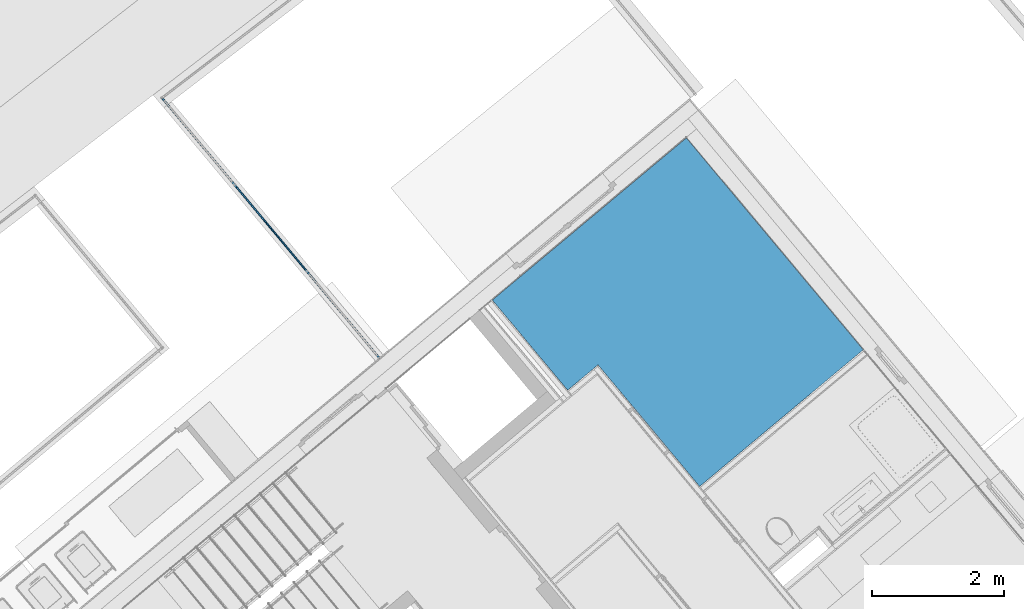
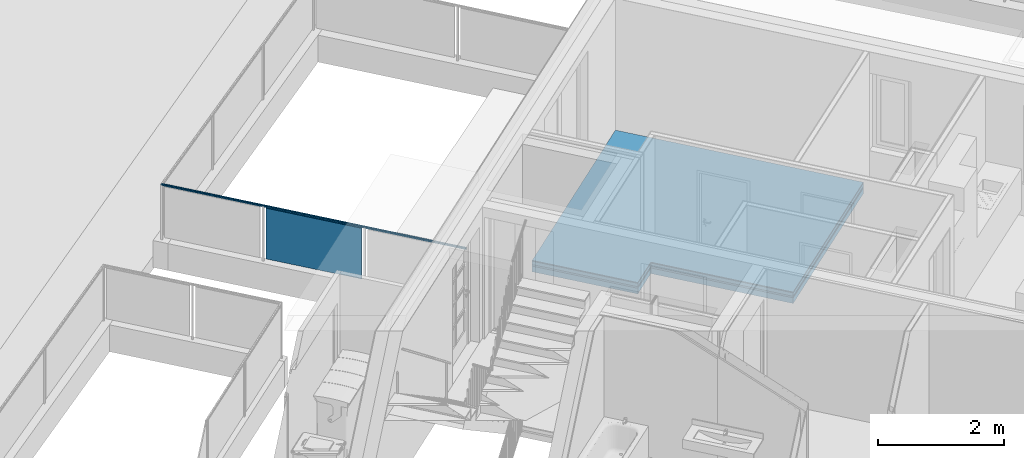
# One storey, part 41 of 75: 6 building element parts, 2 elements without a shape of their own.
"""IFC4 building model written with IfcOpenShell, lengths in metres."""

from ifc_helpers import new_model, entity, si_unit, converted_unit, derived_unit, direction, frame, origin_with_axes, place, context, subcontext, project, spatial, polygons, material, type_object, element, aggregate, save


model = new_model("IFC4")

# Units and contexts
model_context = context("Model", 3, precision=1e-05, world=origin_with_axes(), true_north=direction((0.0, 1.0)))
body_context = subcontext(model_context, "Body", "Model", "MODEL_VIEW")
ifc_project = project(units=[si_unit("LENGTHUNIT", "METRE"), si_unit("AREAUNIT", "SQUARE_METRE"), si_unit("VOLUMEUNIT", "CUBIC_METRE"), converted_unit("PLANEANGLEUNIT", "DEGREE", entity("IfcPlaneAngleMeasure", 0.0174532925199), si_unit("PLANEANGLEUNIT", "RADIAN"), dimensions=[0, 0, 0, 0, 0, 0, 0]), converted_unit("TIMEUNIT", "Year", entity("IfcTimeMeasure", 31556926.0), si_unit("TIMEUNIT", "SECOND"), dimensions=[0, 0, 1, 0, 0, 0, 0]), si_unit("MASSUNIT", "GRAM", prefix="KILO"), si_unit("THERMODYNAMICTEMPERATUREUNIT", "DEGREE_CELSIUS"), si_unit("LUMINOUSINTENSITYUNIT", "LUMEN"), si_unit("ENERGYUNIT", "JOULE", prefix="MEGA"), derived_unit("THERMALCONDUCTANCEUNIT", [(si_unit("POWERUNIT", "WATT"), 1), (si_unit("LENGTHUNIT", "METRE"), -1), (si_unit("THERMODYNAMICTEMPERATUREUNIT", "KELVIN"), -1)]), derived_unit("SPECIFICHEATCAPACITYUNIT", [(si_unit("ENERGYUNIT", "JOULE"), 1), (si_unit("MASSUNIT", "GRAM", prefix="KILO"), -1), (si_unit("THERMODYNAMICTEMPERATUREUNIT", "KELVIN"), -1)]), derived_unit("MASSDENSITYUNIT", [(si_unit("MASSUNIT", "GRAM", prefix="KILO"), 1), (si_unit("VOLUMEUNIT", "CUBIC_METRE"), -1)])], contexts=[model_context])

# Site, building, storey, space
site_placement = place(None, frame((-0.00153261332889, -0.00661245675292, 0.0), z_axis=(0.0, 0.0, 1.0), x_axis=(1.0, 0.0, 0.0)))
site = spatial("IfcSite", under=ifc_project, at=site_placement, Name="Gelände", CompositionType="ELEMENT")
building_placement = place(site_placement, origin_with_axes())
building = spatial("IfcBuilding", under=site, at=building_placement, Name="Gebäude", CompositionType="ELEMENT")
storey_placement = place(building_placement, frame((0.0, 0.0, -0.22), z_axis=(0.0, 0.0, 1.0), x_axis=(1.0, 0.0, 0.0)))
storey = spatial("IfcBuildingStorey", under=building, at=storey_placement, Name="EG", CompositionType="ELEMENT", Elevation=-0.22)
space_placement = place(storey_placement, frame((7.56733888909, 26.6013348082, 0.0), z_axis=(0.0, 0.0, 1.0), x_axis=(-0.641209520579, 0.767365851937, 0.0)))
space = spatial("IfcSpace", under=storey, at=space_placement, CompositionType="ELEMENT", PredefinedType="NOTDEFINED")

# Covering, building element parts
covering_type = type_object("IfcCoveringType", Name="DE 01 Decke Wohnung/Wohnung Parkett 220", PredefinedType="NOTDEFINED")
covering_placement = place(space_placement, frame((4.18098006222, 3.83036438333, 0.22), z_axis=(0.0, 0.0, 1.0), x_axis=(-0.641209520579, -0.767365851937, 0.0)))
covering = element("IfcCovering", 1, at=covering_placement, inside=space, type_object=covering_type, Name="Decke-005", PredefinedType="NOTDEFINED")
ifc_material_1 = material(Name="Parkett")
building_element_part_1_placement = place(covering_placement, origin_with_axes())
building_element_part_1 = element("IfcBuildingElementPart", 2, at=building_element_part_1_placement, material=ifc_material_1, Name="Parkett", PredefinedType="NOTDEFINED", context=body_context, shape_type="Tessellation", body=[
    polygons([(0.0, 0.0, 0.0), (0.0, 0.0, -0.015), (1.14208254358, -1.36678718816, -0.015), (1.14208254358, -1.36678718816, 0.0), (2.93929082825, 2.45606610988, 0.0), (2.93929082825, 2.45606610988, -0.015), (1.60148856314, -0.982894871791, -0.015), (5.62017504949, -0.752275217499, -0.015), (3.14029687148, -2.82445694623, -0.015), (1.60148856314, -0.982894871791, 0.0), (5.62017504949, -0.752275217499, 0.0), (3.14029687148, -2.82445694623, 0.0)], [[[1, 2, 3, 4]], [[5, 6, 2, 1]], [[7, 3, 2, 6, 8, 9]], [[4, 3, 7, 10]], [[11, 5, 1, 4, 10, 12]], [[11, 8, 6, 5]], [[12, 9, 8, 11]], [[10, 7, 9, 12]]], closed=True),
])
ifc_material_2 = material(Name="Estrich")
building_element_part_2_placement = place(covering_placement, origin_with_axes())
building_element_part_2 = element("IfcBuildingElementPart", 3, at=building_element_part_2_placement, material=ifc_material_2, Name="Estrich", PredefinedType="NOTDEFINED", context=body_context, shape_type="Tessellation", body=[
    polygons([(0.0, 0.0, -0.015), (0.0, 0.0, -0.08), (1.14208254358, -1.36678718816, -0.08), (1.14208254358, -1.36678718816, -0.015), (2.93929082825, 2.45606610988, -0.015), (2.93929082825, 2.45606610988, -0.08), (1.60148856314, -0.982894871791, -0.08), (5.62017504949, -0.752275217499, -0.08), (3.14029687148, -2.82445694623, -0.08), (1.60148856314, -0.982894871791, -0.015), (5.62017504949, -0.752275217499, -0.015), (3.14029687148, -2.82445694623, -0.015)], [[[1, 2, 3, 4]], [[5, 6, 2, 1]], [[7, 3, 2, 6, 8, 9]], [[4, 3, 7, 10]], [[11, 5, 1, 4, 10, 12]], [[11, 8, 6, 5]], [[12, 9, 8, 11]], [[10, 7, 9, 12]]], closed=True),
])
ifc_material_3 = material(Name="Trittschalldämmung")
building_element_part_3_placement = place(covering_placement, origin_with_axes())
building_element_part_3 = element("IfcBuildingElementPart", 4, at=building_element_part_3_placement, material=ifc_material_3, Name="Trittschalldämmung", PredefinedType="NOTDEFINED", context=body_context, shape_type="Tessellation", body=[
    polygons([(0.0, 0.0, -0.08), (0.0, 0.0, -0.11), (1.14208254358, -1.36678718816, -0.11), (1.14208254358, -1.36678718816, -0.08), (2.93929082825, 2.45606610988, -0.08), (2.93929082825, 2.45606610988, -0.11), (1.60148856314, -0.982894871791, -0.11), (5.62017504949, -0.752275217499, -0.11), (3.14029687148, -2.82445694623, -0.11), (1.60148856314, -0.982894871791, -0.08), (5.62017504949, -0.752275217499, -0.08), (3.14029687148, -2.82445694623, -0.08)], [[[1, 2, 3, 4]], [[5, 6, 2, 1]], [[7, 3, 2, 6, 8, 9]], [[4, 3, 7, 10]], [[11, 5, 1, 4, 10, 12]], [[11, 8, 6, 5]], [[12, 9, 8, 11]], [[10, 7, 9, 12]]], closed=True),
])
ifc_material_4 = material(Name="Schüttung")
building_element_part_4_placement = place(covering_placement, origin_with_axes())
building_element_part_4 = element("IfcBuildingElementPart", 5, at=building_element_part_4_placement, material=ifc_material_4, Name="Schüttung", PredefinedType="NOTDEFINED", context=body_context, shape_type="Tessellation", body=[
    polygons([(1.14208254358, -1.36678718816, -0.11), (0.0, 0.0, -0.11), (0.0, 0.0, -0.22), (1.14208254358, -1.36678718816, -0.22), (5.62017504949, -0.752275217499, -0.11), (2.93929082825, 2.45606610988, -0.11), (1.60148856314, -0.982894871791, -0.11), (3.14029687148, -2.82445694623, -0.11), (2.93929082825, 2.45606610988, -0.22), (1.60148856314, -0.982894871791, -0.22), (5.62017504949, -0.752275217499, -0.22), (3.14029687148, -2.82445694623, -0.22)], [[[1, 2, 3, 4]], [[5, 6, 2, 1, 7, 8]], [[2, 6, 9, 3]], [[10, 4, 3, 9, 11, 12]], [[7, 1, 4, 10]], [[6, 5, 11, 9]], [[8, 7, 10, 12]], [[5, 8, 12, 11]]], closed=True),
])
aggregate(covering, [building_element_part_1, building_element_part_2, building_element_part_3, building_element_part_4])

# Railing, building element parts
railing_type = type_object("IfcRailingType", Name="Geländerart", PredefinedType="NOTDEFINED")
railing_placement = place(storey_placement, frame((0.180685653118, 26.4249004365, 0.523948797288), z_axis=(0.0, 0.0, 1.0), x_axis=(1.0, 0.0, 0.0)))
railing = element("IfcRailing", 6, at=railing_placement, inside=storey, type_object=railing_type, Name="Geländer - 001", PredefinedType="NOTDEFINED")
ifc_material_5 = material(Name="Aluminium")
building_element_part_5_placement = place(railing_placement, origin_with_axes())
building_element_part_5 = element("IfcBuildingElementPart", 7, at=building_element_part_5_placement, material=ifc_material_5, Name="Aluminium", PredefinedType="NOTDEFINED", context=body_context, shape_type="Tessellation", body=[
    polygons([(0.0653380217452, 0.0545796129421, 1.07636363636), (0.0655184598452, 0.0547303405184, 1.07634109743), (-3.21943358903, 3.98719260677, 1.07634109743), (-3.21977118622, 3.98723001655, 1.07636363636), (0.0653380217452, 0.0545796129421, 1.07818181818), (0.0652906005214, 0.0545399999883, 1.07820551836), (0.0627600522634, 0.0524261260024, 1.0792391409), (0.0601928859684, 0.0502816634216, 1.07983921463), (0.057608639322, 0.0481229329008, 1.08000117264), (0.0575596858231, 0.0480820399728, 1.08), (0.0575107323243, 0.0480411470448, 1.08000117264), (0.0549264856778, 0.045882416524, 1.07983921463), (0.0523593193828, 0.0437379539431, 1.0792391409), (0.0498287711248, 0.0416240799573, 1.07820551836), (0.0497813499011, 0.0415844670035, 1.07818181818), (0.0497813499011, 0.0415844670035, 1.07636363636), (0.0496009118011, 0.0414337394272, 1.07634109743), (0.0489327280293, 0.0408755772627, 1.0761115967), (0.048295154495, 0.0403429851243, 1.07565956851), (0.0477075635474, 0.0398521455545, 1.07499874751), (0.0471878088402, 0.0394179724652, 1.0741492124), (0.0467516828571, 0.0390536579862, 1.07313677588), (0.0464124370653, 0.0387702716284, 1.07199220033), (0.0461803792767, 0.038576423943, 1.07075026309), (0.0460625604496, 0.0384780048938, 1.06944869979), (0.0460625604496, 0.0384780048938, 1.06812705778), (0.0461803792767, 0.038576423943, 1.06682549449), (0.0464124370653, 0.0387702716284, 1.06558355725), (0.0467516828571, 0.0390536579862, 1.06443898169), (0.0471878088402, 0.0394179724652, 1.06342654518), (0.0477075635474, 0.0398521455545, 1.06257701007), (0.048295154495, 0.0403429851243, 1.06191618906), (0.0489327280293, 0.0408755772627, 1.06146416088), (0.0496009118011, 0.0414337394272, 1.06123466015), (0.0497813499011, 0.0415844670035, 1.06121212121), (0.0497813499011, 0.0415844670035, 1.05818181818), (0.0499033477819, 0.041686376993, 1.05810011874), (0.0504716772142, 0.0421611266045, 1.05758389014), (0.0509853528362, 0.0425902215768, 1.05688326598), (0.0514287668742, 0.0429606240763, 1.05601953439), (0.051788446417, 0.0432610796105, 1.05501893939), (0.0520534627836, 0.04348245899, 1.05391188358), (0.0522157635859, 0.0436180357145, 1.05273200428), (0.0522704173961, 0.0436636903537, 1.05151515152), (0.0522157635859, 0.0436180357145, 1.05029829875), (0.0520534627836, 0.04348245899, 1.04911841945), (0.051788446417, 0.0432610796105, 1.04801136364), (0.0514287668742, 0.0429606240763, 1.04701076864), (0.0509853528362, 0.0425902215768, 1.04614703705), (0.0504716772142, 0.0421611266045, 1.04544641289), (0.0499033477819, 0.041686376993, 1.04493018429), (0.0497813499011, 0.0415844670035, 1.04484848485), (0.0497813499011, 0.0415844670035, 1.04), (0.0653380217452, 0.0545796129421, 1.04), (0.0653380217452, 0.0545796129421, 1.04484848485), (0.0652160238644, 0.0544777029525, 1.04493018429), (0.0646476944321, 0.0540029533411, 1.04544641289), (0.06413401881, 0.0535738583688, 1.04614703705), (0.063690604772, 0.0532034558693, 1.04701076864), (0.0633309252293, 0.0529030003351, 1.04801136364), (0.0630659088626, 0.0526816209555, 1.04911841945), (0.0629036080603, 0.0525460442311, 1.05029829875), (0.0628489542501, 0.0525003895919, 1.05151515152), (0.0629036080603, 0.0525460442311, 1.05273200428), (0.0630659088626, 0.0526816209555, 1.05391188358), (0.0633309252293, 0.0529030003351, 1.05501893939), (0.063690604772, 0.0532034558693, 1.05601953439), (0.06413401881, 0.0535738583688, 1.05688326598), (0.0646476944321, 0.0540029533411, 1.05758389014), (0.0652160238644, 0.0544777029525, 1.05810011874), (0.0653380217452, 0.0545796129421, 1.05818181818), (0.0653380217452, 0.0545796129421, 1.06121212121), (0.0655184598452, 0.0547303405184, 1.06123466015), (0.0661866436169, 0.0552885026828, 1.06146416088), (0.0668242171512, 0.0558210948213, 1.06191618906), (0.0674118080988, 0.0563119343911, 1.06257701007), (0.067931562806, 0.0567461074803, 1.06342654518), (0.0683676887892, 0.0571104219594, 1.06443898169), (0.0687069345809, 0.0573938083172, 1.06558355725), (0.0689389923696, 0.0575876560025, 1.06682549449), (0.0690568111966, 0.0576860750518, 1.06812705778), (0.0690568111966, 0.0576860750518, 1.06944869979), (0.0689389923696, 0.0575876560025, 1.07075026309), (0.0687069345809, 0.0573938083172, 1.07199220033), (0.0683676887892, 0.0571104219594, 1.07313677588), (0.067931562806, 0.0567461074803, 1.0741492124), (0.0674118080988, 0.0563119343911, 1.07499874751), (0.0668242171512, 0.0558210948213, 1.07565956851), (0.0661866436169, 0.0552885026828, 1.0761115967), (-3.21818342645, 3.98705407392, 1.0761115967), (-3.21699053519, 3.98692188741, 1.07565956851), (-3.21589116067, 3.98680006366, 1.07499874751), (-3.21491870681, 3.98669230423, 1.0741492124), (-3.21410272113, 3.98660188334, 1.07313677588), (-3.21346799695, 3.98653154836, 1.07199220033), (-3.21303382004, 3.98648343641, 1.07075026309), (-3.21281338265, 3.98645900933, 1.06944869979), (-3.21281338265, 3.98645900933, 1.06812705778), (-3.21303382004, 3.98648343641, 1.06682549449), (-3.21346799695, 3.98653154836, 1.06558355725), (-3.21410272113, 3.98660188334, 1.06443898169), (-3.21491870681, 3.98669230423, 1.06342654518), (-3.21589116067, 3.98680006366, 1.06257701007), (-3.21699053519, 3.98692188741, 1.06191618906), (-3.21818342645, 3.98705407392, 1.06146416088), (-3.21943358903, 3.98719260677, 1.06123466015), (-3.21977118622, 3.98723001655, 1.06121212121), (-3.21977118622, 3.98723001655, 1.05818181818), (-3.21999944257, 3.98725531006, 1.05810011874), (-3.22106277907, 3.98737314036, 1.05758389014), (-3.22202385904, 3.98747963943, 1.05688326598), (-3.22285348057, 3.98757157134, 1.05601953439), (-3.22352643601, 3.9876461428, 1.05501893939), (-3.22402227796, 3.98770108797, 1.05391188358), (-3.22432594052, 3.98773473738, 1.05273200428), (-3.22442819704, 3.98774606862, 1.05151515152), (-3.22432594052, 3.98773473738, 1.05029829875), (-3.22402227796, 3.98770108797, 1.04911841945), (-3.22352643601, 3.9876461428, 1.04801136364), (-3.22285348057, 3.98757157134, 1.04701076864), (-3.22202385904, 3.98747963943, 1.04614703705), (-3.22106277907, 3.98737314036, 1.04544641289), (-3.21999944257, 3.98725531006, 1.04493018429), (-3.21977118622, 3.98723001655, 1.04484848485), (-3.21977118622, 3.98723001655, 1.04), (-3.24887750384, 3.99045534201, 1.04), (-3.24887750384, 3.99045534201, 1.04484848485), (-3.2486492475, 3.99043004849, 1.04493018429), (-3.247585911, 3.99031221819, 1.04544641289), (-3.24662483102, 3.99020571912, 1.04614703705), (-3.2457952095, 3.99011378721, 1.04701076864), (-3.24512225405, 3.99003921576, 1.04801136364), (-3.2446264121, 3.98998427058, 1.04911841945), (-3.24432274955, 3.98995062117, 1.05029829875), (-3.24422049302, 3.98993928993, 1.05151515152), (-3.24432274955, 3.98995062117, 1.05273200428), (-3.2446264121, 3.98998427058, 1.05391188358), (-3.24512225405, 3.99003921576, 1.05501893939), (-3.2457952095, 3.99011378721, 1.05601953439), (-3.24662483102, 3.99020571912, 1.05688326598), (-3.247585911, 3.99031221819, 1.05758389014), (-3.2486492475, 3.99043004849, 1.05810011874), (-3.24887750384, 3.99045534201, 1.05818181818), (-3.24887750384, 3.99045534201, 1.06121212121), (-3.24921510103, 3.99049275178, 1.06123466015), (-3.25046526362, 3.99063128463, 1.06146416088), (-3.25165815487, 3.99076347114, 1.06191618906), (-3.2527575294, 3.99088529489, 1.06257701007), (-3.25372998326, 3.99099305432, 1.06342654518), (-3.25454596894, 3.99108347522, 1.06443898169), (-3.25518069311, 3.99115381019, 1.06558355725), (-3.25561487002, 3.99120192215, 1.06682549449), (-3.25583530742, 3.99122634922, 1.06812705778), (-3.25583530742, 3.99122634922, 1.06944869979), (-3.25561487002, 3.99120192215, 1.07075026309), (-3.25518069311, 3.99115381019, 1.07199220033), (-3.25454596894, 3.99108347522, 1.07313677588), (-3.25372998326, 3.99099305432, 1.0741492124), (-3.2527575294, 3.99088529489, 1.07499874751), (-3.25165815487, 3.99076347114, 1.07565956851), (-3.25046526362, 3.99063128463, 1.0761115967), (-3.24921510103, 3.99049275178, 1.07634109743), (-3.24887750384, 3.99045534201, 1.07636363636), (-3.24887750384, 3.99045534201, 1.07818181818), (-3.24878877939, 3.99044551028, 1.07820551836), (-3.24405415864, 3.98992085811, 1.0792391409), (-3.23925102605, 3.98938861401, 1.07983921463), (-3.23441593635, 3.98885282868, 1.08000117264), (-3.23432434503, 3.98884267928, 1.08), (-3.23423275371, 3.98883252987, 1.08000117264), (-3.22939766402, 3.98829674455, 1.07983921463), (-3.22459453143, 3.98776450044, 1.0792391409), (-3.21985991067, 3.98723984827, 1.07820551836), (-3.21977118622, 3.98723001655, 1.07818181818)], [[[1, 2, 3, 4]], [[1, 5, 6, 7, 8, 9, 10, 11, 12, 13, 14, 15, 16, 17, 18, 19, 20, 21, 22, 23, 24, 25, 26, 27, 28, 29, 30, 31, 32, 33, 34, 35, 36, 37, 38, 39, 40, 41, 42, 43, 44, 45, 46, 47, 48, 49, 50, 51, 52, 53, 54, 55, 56, 57, 58, 59, 60, 61, 62, 63, 64, 65, 66, 67, 68, 69, 70, 71, 72, 73, 74, 75, 76, 77, 78, 79, 80, 81, 82, 83, 84, 85, 86, 87, 88, 89, 2]], [[2, 89, 90, 3]], [[4, 3, 90, 91, 92, 93, 94, 95, 96, 97, 98, 99, 100, 101, 102, 103, 104, 105, 106, 107, 108, 109, 110, 111, 112, 113, 114, 115, 116, 117, 118, 119, 120, 121, 122, 123, 124, 125, 126, 127, 128, 129, 130, 131, 132, 133, 134, 135, 136, 137, 138, 139, 140, 141, 142, 143, 144, 145, 146, 147, 148, 149, 150, 151, 152, 153, 154, 155, 156, 157, 158, 159, 160, 161, 162, 163, 164, 165, 166, 167, 168, 169, 170, 171, 172, 173, 174]], [[5, 1, 4, 174]], [[6, 5, 174, 173]], [[7, 6, 173, 172]], [[8, 7, 172, 171]], [[9, 8, 171, 170]], [[10, 9, 170, 169]], [[11, 10, 169, 168]], [[12, 11, 168, 167]], [[13, 12, 167, 166]], [[14, 13, 166, 165]], [[15, 14, 165, 164]], [[16, 15, 164, 163]], [[17, 16, 163, 162]], [[18, 17, 162, 161]], [[19, 18, 161, 160]], [[20, 19, 160, 159]], [[21, 20, 159, 158]], [[22, 21, 158, 157]], [[23, 22, 157, 156]], [[24, 23, 156, 155]], [[25, 24, 155, 154]], [[26, 25, 154, 153]], [[27, 26, 153, 152]], [[28, 27, 152, 151]], [[29, 28, 151, 150]], [[30, 29, 150, 149]], [[31, 30, 149, 148]], [[32, 31, 148, 147]], [[33, 32, 147, 146]], [[34, 33, 146, 145]], [[35, 34, 145, 144]], [[36, 35, 144, 143]], [[37, 36, 143, 142]], [[38, 37, 142, 141]], [[39, 38, 141, 140]], [[40, 39, 140, 139]], [[41, 40, 139, 138]], [[42, 41, 138, 137]], [[43, 42, 137, 136]], [[44, 43, 136, 135]], [[45, 44, 135, 134]], [[46, 45, 134, 133]], [[47, 46, 133, 132]], [[48, 47, 132, 131]], [[49, 48, 131, 130]], [[50, 49, 130, 129]], [[51, 50, 129, 128]], [[52, 51, 128, 127]], [[53, 52, 127, 126]], [[54, 53, 126, 125]], [[55, 54, 125, 124]], [[56, 55, 124, 123]], [[57, 56, 123, 122]], [[58, 57, 122, 121]], [[59, 58, 121, 120]], [[60, 59, 120, 119]], [[61, 60, 119, 118]], [[62, 61, 118, 117]], [[63, 62, 117, 116]], [[64, 63, 116, 115]], [[65, 64, 115, 114]], [[66, 65, 114, 113]], [[67, 66, 113, 112]], [[68, 67, 112, 111]], [[69, 68, 111, 110]], [[70, 69, 110, 109]], [[71, 70, 109, 108]], [[72, 71, 108, 107]], [[73, 72, 107, 106]], [[74, 73, 106, 105]], [[75, 74, 105, 104]], [[76, 75, 104, 103]], [[77, 76, 103, 102]], [[78, 77, 102, 101]], [[79, 78, 101, 100]], [[80, 79, 100, 99]], [[81, 80, 99, 98]], [[82, 81, 98, 97]], [[83, 82, 97, 96]], [[84, 83, 96, 95]], [[85, 84, 95, 94]], [[86, 85, 94, 93]], [[87, 86, 93, 92]], [[88, 87, 92, 91]], [[89, 88, 91, 90]]], closed=True),
])
ifc_material_6 = material(Name="Zaun")
building_element_part_6_placement = place(railing_placement, origin_with_axes())
building_element_part_6 = element("IfcBuildingElementPart", 8, at=building_element_part_6_placement, material=ifc_material_6, Name="Zaun", PredefinedType="NOTDEFINED", context=body_context, shape_type="Tessellation", body=[
    polygons([(-2.11264959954, 2.63047173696, 0.05), (-1.07946430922, 1.39363110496, 0.05), (-1.07946430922, 1.39363110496, 1.03), (-2.11264959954, 2.63047173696, 1.03), (-1.06411505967, 1.40645298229, 0.05), (-2.09730034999, 2.64329361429, 0.05), (-1.06411505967, 1.40645298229, 1.03), (-2.09730034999, 2.64329361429, 1.03)], [[[1, 2, 3, 4]], [[5, 2, 1, 6]], [[7, 3, 2, 5]], [[4, 3, 7, 8]], [[1, 4, 8, 6]], [[7, 5, 6, 8]]], closed=True),
])
aggregate(railing, [building_element_part_5, building_element_part_6])

save(model, "model.ifc")
